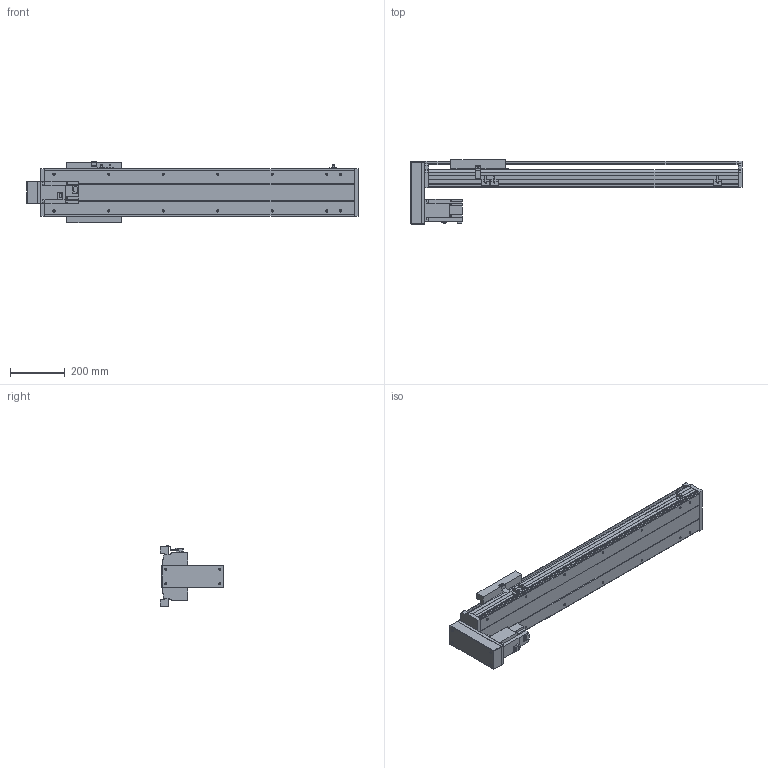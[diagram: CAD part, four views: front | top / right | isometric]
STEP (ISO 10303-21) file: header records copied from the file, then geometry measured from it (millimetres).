
FILE_DESCRIPTION(/* description */ ('STEP AP214'),/* implementation_level */ '2;1');
FILE_NAME(/* name */ 'PSS200-L10-S800-BM-T75-C1-N(0)',/* time_stamp */ '2022-06-06T04:44:58+02:00',/* author */ ('License CC BY-ND 4.0'),/* organization */ ('CADENAS'),/* preprocessor_version */ 'ST-DEVELOPER v18.102',/* originating_system */ 'PARTsolutions',/* authorisation */ ' ');
FILE_SCHEMA (('AUTOMOTIVE_DESIGN {1 0 10303 214 3 1 1}'));
Length unit declared in the file: millimetre
Products named in the file (8): PSS200-L10-S800-BM-T75-C1-N(0); PSS200-S800-BM-N_S; T75-p1; PSS200BM-N_h; PSS200-N_sensor; PSS200-BM-C1-N_sl; PSS200-N_Q; PSS200-S800-BM-C1-N_body
Assembly tree (9 placements, depth 2):
  PSS200-L10-S800-BM-T75-C1-N(0)
    PSS200-S800-BM-N_S
    T75-p1
    PSS200BM-N_h
    PSS200-N_sensor  x3
    PSS200-BM-C1-N_sl
    PSS200-N_Q
    PSS200-S800-BM-C1-N_body
Bounding box: 1216.85 x 234.45 x 223.86 mm (x, y, z)
Volume: 8361113 mm3; surface area: 1947850.2 mm2
Topology: 9 solids, 9 shells, 602 faces, 1613 edges, 1070 vertices
Faces by surface type: plane 452, cylinder 124, cone 22, sphere 4
Full cylindrical faces by diameter (mm): 4 x2, 4.5 x4, 6 x7, 6.647 x18, 7.4 x4, 8 x8, 10 x6, 25 x1, 40 x1, 67 x1
Entity records: 16744 total; most frequent: CARTESIAN_POINT 2901, DIRECTION 2767, ORIENTED_EDGE 2734, EDGE_CURVE 1367, LINE 1071, VECTOR 1071, VERTEX_POINT 950, AXIS2_PLACEMENT_3D 848
